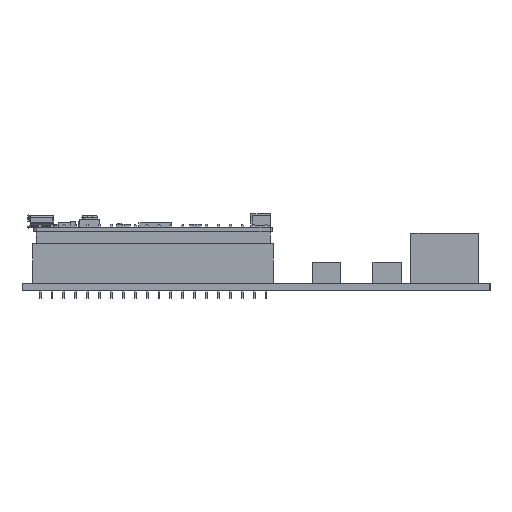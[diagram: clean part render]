
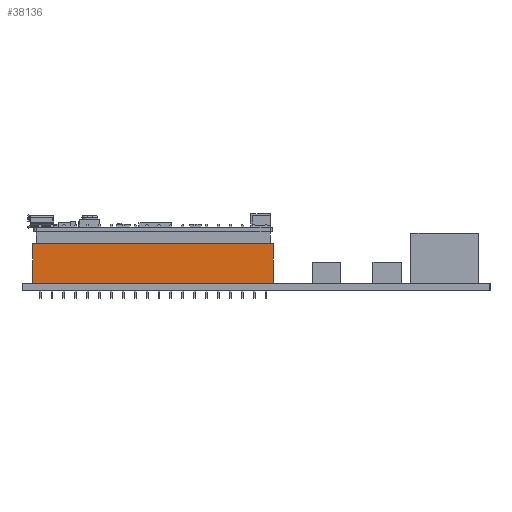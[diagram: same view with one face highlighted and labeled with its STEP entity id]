
A CAD part, left-side view. The second image highlights one B-rep face of the part: STEP entity #38136.
In plain terms, the highlighted planar face has unit normal (-1, 0, 0).
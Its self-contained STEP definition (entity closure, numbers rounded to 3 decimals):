
#38136 = ADVANCED_FACE('',(#38137),#38151,.F.);
#38137 = FACE_BOUND('',#38138,.F.);
#38138 = EDGE_LOOP('',(#38139,#38174,#38202,#38230));
#38139 = ORIENTED_EDGE('',*,*,#38140,.F.);
#38140 = EDGE_CURVE('',#38141,#38143,#38145,.T.);
#38141 = VERTEX_POINT('',#38142);
#38142 = CARTESIAN_POINT('',(9.84,-53.65,1.6));
#38143 = VERTEX_POINT('',#38144);
#38144 = CARTESIAN_POINT('',(9.84,-53.65,10.1));
#38145 = SURFACE_CURVE('',#38146,(#38150,#38162),.PCURVE_S1.);
#38146 = LINE('',#38147,#38148);
#38147 = CARTESIAN_POINT('',(9.84,-53.65,1.6));
#38148 = VECTOR('',#38149,1.);
#38149 = DIRECTION('',(0.,0.,1.));
#38150 = PCURVE('',#38151,#38156);
#38151 = PLANE('',#38152);
#38152 = AXIS2_PLACEMENT_3D('',#38153,#38154,#38155);
#38153 = CARTESIAN_POINT('',(9.84,-53.65,1.6));
#38154 = DIRECTION('',(1.,0.,-0.));
#38155 = DIRECTION('',(0.,0.,1.));
#38156 = DEFINITIONAL_REPRESENTATION('',(#38157),#38161);
#38157 = LINE('',#38158,#38159);
#38158 = CARTESIAN_POINT('',(0.,0.));
#38159 = VECTOR('',#38160,1.);
#38160 = DIRECTION('',(1.,0.));
#38161 = ( GEOMETRIC_REPRESENTATION_CONTEXT(2) 
PARAMETRIC_REPRESENTATION_CONTEXT() REPRESENTATION_CONTEXT('2D SPACE',''
  ) );
#38162 = PCURVE('',#38163,#38168);
#38163 = PLANE('',#38164);
#38164 = AXIS2_PLACEMENT_3D('',#38165,#38166,#38167);
#38165 = CARTESIAN_POINT('',(9.84,-53.65,1.6));
#38166 = DIRECTION('',(-0.,1.,0.));
#38167 = DIRECTION('',(0.,0.,1.));
#38168 = DEFINITIONAL_REPRESENTATION('',(#38169),#38173);
#38169 = LINE('',#38170,#38171);
#38170 = CARTESIAN_POINT('',(0.,0.));
#38171 = VECTOR('',#38172,1.);
#38172 = DIRECTION('',(1.,0.));
#38173 = ( GEOMETRIC_REPRESENTATION_CONTEXT(2) 
PARAMETRIC_REPRESENTATION_CONTEXT() REPRESENTATION_CONTEXT('2D SPACE',''
  ) );
#38174 = ORIENTED_EDGE('',*,*,#38175,.T.);
#38175 = EDGE_CURVE('',#38141,#38176,#38178,.T.);
#38176 = VERTEX_POINT('',#38177);
#38177 = CARTESIAN_POINT('',(9.84,-2.35,1.6));
#38178 = SURFACE_CURVE('',#38179,(#38183,#38190),.PCURVE_S1.);
#38179 = LINE('',#38180,#38181);
#38180 = CARTESIAN_POINT('',(9.84,-53.65,1.6));
#38181 = VECTOR('',#38182,1.);
#38182 = DIRECTION('',(-0.,1.,0.));
#38183 = PCURVE('',#38151,#38184);
#38184 = DEFINITIONAL_REPRESENTATION('',(#38185),#38189);
#38185 = LINE('',#38186,#38187);
#38186 = CARTESIAN_POINT('',(0.,0.));
#38187 = VECTOR('',#38188,1.);
#38188 = DIRECTION('',(0.,-1.));
#38189 = ( GEOMETRIC_REPRESENTATION_CONTEXT(2) 
PARAMETRIC_REPRESENTATION_CONTEXT() REPRESENTATION_CONTEXT('2D SPACE',''
  ) );
#38190 = PCURVE('',#38191,#38196);
#38191 = PLANE('',#38192);
#38192 = AXIS2_PLACEMENT_3D('',#38193,#38194,#38195);
#38193 = CARTESIAN_POINT('',(9.84,-53.65,1.6));
#38194 = DIRECTION('',(0.,0.,1.));
#38195 = DIRECTION('',(1.,0.,-0.));
#38196 = DEFINITIONAL_REPRESENTATION('',(#38197),#38201);
#38197 = LINE('',#38198,#38199);
#38198 = CARTESIAN_POINT('',(0.,0.));
#38199 = VECTOR('',#38200,1.);
#38200 = DIRECTION('',(0.,1.));
#38201 = ( GEOMETRIC_REPRESENTATION_CONTEXT(2) 
PARAMETRIC_REPRESENTATION_CONTEXT() REPRESENTATION_CONTEXT('2D SPACE',''
  ) );
#38202 = ORIENTED_EDGE('',*,*,#38203,.T.);
#38203 = EDGE_CURVE('',#38176,#38204,#38206,.T.);
#38204 = VERTEX_POINT('',#38205);
#38205 = CARTESIAN_POINT('',(9.84,-2.35,10.1));
#38206 = SURFACE_CURVE('',#38207,(#38211,#38218),.PCURVE_S1.);
#38207 = LINE('',#38208,#38209);
#38208 = CARTESIAN_POINT('',(9.84,-2.35,1.6));
#38209 = VECTOR('',#38210,1.);
#38210 = DIRECTION('',(0.,0.,1.));
#38211 = PCURVE('',#38151,#38212);
#38212 = DEFINITIONAL_REPRESENTATION('',(#38213),#38217);
#38213 = LINE('',#38214,#38215);
#38214 = CARTESIAN_POINT('',(0.,-51.3));
#38215 = VECTOR('',#38216,1.);
#38216 = DIRECTION('',(1.,0.));
#38217 = ( GEOMETRIC_REPRESENTATION_CONTEXT(2) 
PARAMETRIC_REPRESENTATION_CONTEXT() REPRESENTATION_CONTEXT('2D SPACE',''
  ) );
#38218 = PCURVE('',#38219,#38224);
#38219 = PLANE('',#38220);
#38220 = AXIS2_PLACEMENT_3D('',#38221,#38222,#38223);
#38221 = CARTESIAN_POINT('',(9.84,-2.35,1.6));
#38222 = DIRECTION('',(-0.,1.,0.));
#38223 = DIRECTION('',(0.,0.,1.));
#38224 = DEFINITIONAL_REPRESENTATION('',(#38225),#38229);
#38225 = LINE('',#38226,#38227);
#38226 = CARTESIAN_POINT('',(0.,0.));
#38227 = VECTOR('',#38228,1.);
#38228 = DIRECTION('',(1.,0.));
#38229 = ( GEOMETRIC_REPRESENTATION_CONTEXT(2) 
PARAMETRIC_REPRESENTATION_CONTEXT() REPRESENTATION_CONTEXT('2D SPACE',''
  ) );
#38230 = ORIENTED_EDGE('',*,*,#38231,.F.);
#38231 = EDGE_CURVE('',#38143,#38204,#38232,.T.);
#38232 = SURFACE_CURVE('',#38233,(#38237,#38244),.PCURVE_S1.);
#38233 = LINE('',#38234,#38235);
#38234 = CARTESIAN_POINT('',(9.84,-53.65,10.1));
#38235 = VECTOR('',#38236,1.);
#38236 = DIRECTION('',(-0.,1.,0.));
#38237 = PCURVE('',#38151,#38238);
#38238 = DEFINITIONAL_REPRESENTATION('',(#38239),#38243);
#38239 = LINE('',#38240,#38241);
#38240 = CARTESIAN_POINT('',(8.5,0.));
#38241 = VECTOR('',#38242,1.);
#38242 = DIRECTION('',(0.,-1.));
#38243 = ( GEOMETRIC_REPRESENTATION_CONTEXT(2) 
PARAMETRIC_REPRESENTATION_CONTEXT() REPRESENTATION_CONTEXT('2D SPACE',''
  ) );
#38244 = PCURVE('',#38245,#38250);
#38245 = PLANE('',#38246);
#38246 = AXIS2_PLACEMENT_3D('',#38247,#38248,#38249);
#38247 = CARTESIAN_POINT('',(9.84,-53.65,10.1));
#38248 = DIRECTION('',(0.,0.,1.));
#38249 = DIRECTION('',(1.,0.,-0.));
#38250 = DEFINITIONAL_REPRESENTATION('',(#38251),#38255);
#38251 = LINE('',#38252,#38253);
#38252 = CARTESIAN_POINT('',(0.,0.));
#38253 = VECTOR('',#38254,1.);
#38254 = DIRECTION('',(0.,1.));
#38255 = ( GEOMETRIC_REPRESENTATION_CONTEXT(2) 
PARAMETRIC_REPRESENTATION_CONTEXT() REPRESENTATION_CONTEXT('2D SPACE',''
  ) );
